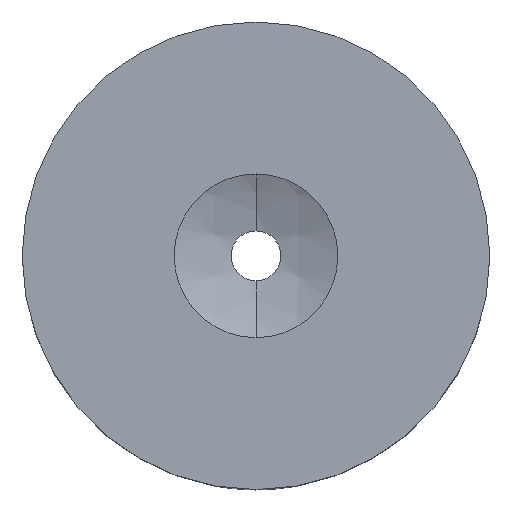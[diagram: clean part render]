
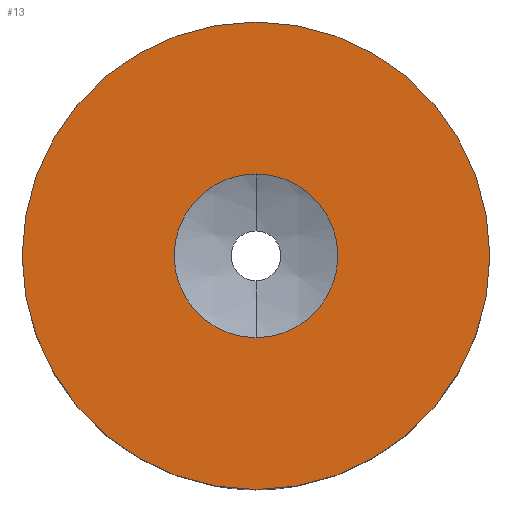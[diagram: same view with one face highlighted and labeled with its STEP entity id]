
A CAD part, top view. The second image highlights one B-rep face of the part: STEP entity #13.
In plain terms, the highlighted planar face has unit normal (0, 0, 1).
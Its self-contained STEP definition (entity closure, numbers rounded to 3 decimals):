
#6 = DIRECTION ( 'NONE',  ( 0., 0., 1. ) ) ;
#13 = ADVANCED_FACE ( 'NONE', ( #346, #562 ), #452, .T. ) ;
#16 = ORIENTED_EDGE ( 'NONE', *, *, #100, .T. ) ;
#29 = DIRECTION ( 'NONE',  ( -1., 0., 0. ) ) ;
#64 = AXIS2_PLACEMENT_3D ( 'NONE', #259, #6, #306 ) ;
#73 = CARTESIAN_POINT ( 'NONE',  ( 0., 0., 0. ) ) ;
#95 = DIRECTION ( 'NONE',  ( 0., 0., 1. ) ) ;
#100 = EDGE_CURVE ( 'NONE', #518, #615, #244, .T. ) ;
#143 = VERTEX_POINT ( 'NONE', #165 ) ;
#144 = CARTESIAN_POINT ( 'NONE',  ( 0., 0., 0. ) ) ;
#151 = AXIS2_PLACEMENT_3D ( 'NONE', #144, #153, #389 ) ;
#153 = DIRECTION ( 'NONE',  ( 0., 0., 1. ) ) ;
#165 = CARTESIAN_POINT ( 'NONE',  ( 0., -6.652, 0. ) ) ;
#182 = AXIS2_PLACEMENT_3D ( 'NONE', #405, #95, #612 ) ;
#187 = EDGE_LOOP ( 'NONE', ( #503, #16 ) ) ;
#217 = CARTESIAN_POINT ( 'NONE',  ( 0., 6.652, 0. ) ) ;
#244 = CIRCLE ( 'NONE', #64, 19. ) ;
#259 = CARTESIAN_POINT ( 'NONE',  ( 0., 0., 0. ) ) ;
#263 = EDGE_LOOP ( 'NONE', ( #401, #341 ) ) ;
#268 = CIRCLE ( 'NONE', #359, 6.652 ) ;
#282 = AXIS2_PLACEMENT_3D ( 'NONE', #594, #334, #289 ) ;
#289 = DIRECTION ( 'NONE',  ( -1., 0., 0. ) ) ;
#306 = DIRECTION ( 'NONE',  ( 1., 0., 0. ) ) ;
#313 = EDGE_CURVE ( 'NONE', #615, #518, #620, .T. ) ;
#334 = DIRECTION ( 'NONE',  ( 0., 0., -1. ) ) ;
#341 = ORIENTED_EDGE ( 'NONE', *, *, #613, .T. ) ;
#346 = FACE_BOUND ( 'NONE', #263, .T. ) ;
#359 = AXIS2_PLACEMENT_3D ( 'NONE', #73, #495, #29 ) ;
#389 = DIRECTION ( 'NONE',  ( 1., 0., 0. ) ) ;
#401 = ORIENTED_EDGE ( 'NONE', *, *, #542, .T. ) ;
#405 = CARTESIAN_POINT ( 'NONE',  ( 0., -2., 0. ) ) ;
#424 = VERTEX_POINT ( 'NONE', #217 ) ;
#452 = PLANE ( 'NONE',  #182 ) ;
#480 = CIRCLE ( 'NONE', #282, 6.652 ) ;
#495 = DIRECTION ( 'NONE',  ( 0., 0., -1. ) ) ;
#503 = ORIENTED_EDGE ( 'NONE', *, *, #313, .T. ) ;
#518 = VERTEX_POINT ( 'NONE', #548 ) ;
#541 = CARTESIAN_POINT ( 'NONE',  ( 19., 0., 0. ) ) ;
#542 = EDGE_CURVE ( 'NONE', #424, #143, #268, .T. ) ;
#548 = CARTESIAN_POINT ( 'NONE',  ( -19., 0., 0. ) ) ;
#562 = FACE_OUTER_BOUND ( 'NONE', #187, .T. ) ;
#594 = CARTESIAN_POINT ( 'NONE',  ( 0., 0., 0. ) ) ;
#612 = DIRECTION ( 'NONE',  ( 1., 0., 0. ) ) ;
#613 = EDGE_CURVE ( 'NONE', #143, #424, #480, .T. ) ;
#615 = VERTEX_POINT ( 'NONE', #541 ) ;
#620 = CIRCLE ( 'NONE', #151, 19. ) ;
